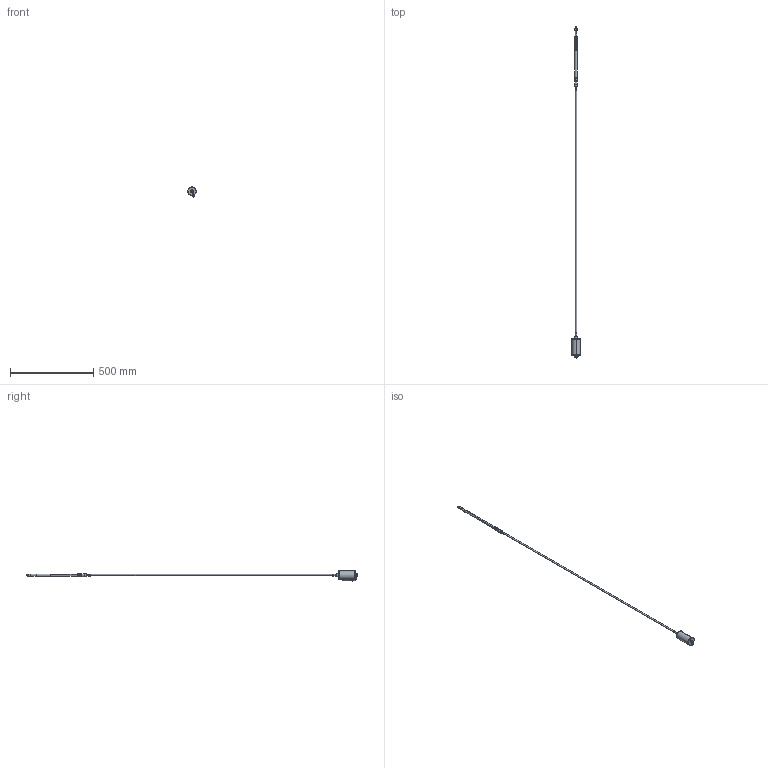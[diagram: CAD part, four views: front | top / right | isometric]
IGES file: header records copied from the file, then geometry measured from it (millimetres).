
Start section: SolidWorks IGES file using analytic representation for surfaces
Global section: file name: C:\Users\daniele.peli\Desktop\HIX1-S-6-H-M35U-1-5-K-S-0-6-G04.IGS; native system: SolidWorks 2021; preprocessor: SolidWorks 2021; author: daniele.peli; date: 210211.103121; units: millimetre
Bounding box: 50 x 1994.6 x 60.16 mm (x, y, z)
Surface area: 78354.1 mm2 (no closed solid volume)
Topology: 0 solids, 0 shells, 163 faces, 2524 edges, 2524 vertices
Faces by surface type: revolution 105, bspline 58
